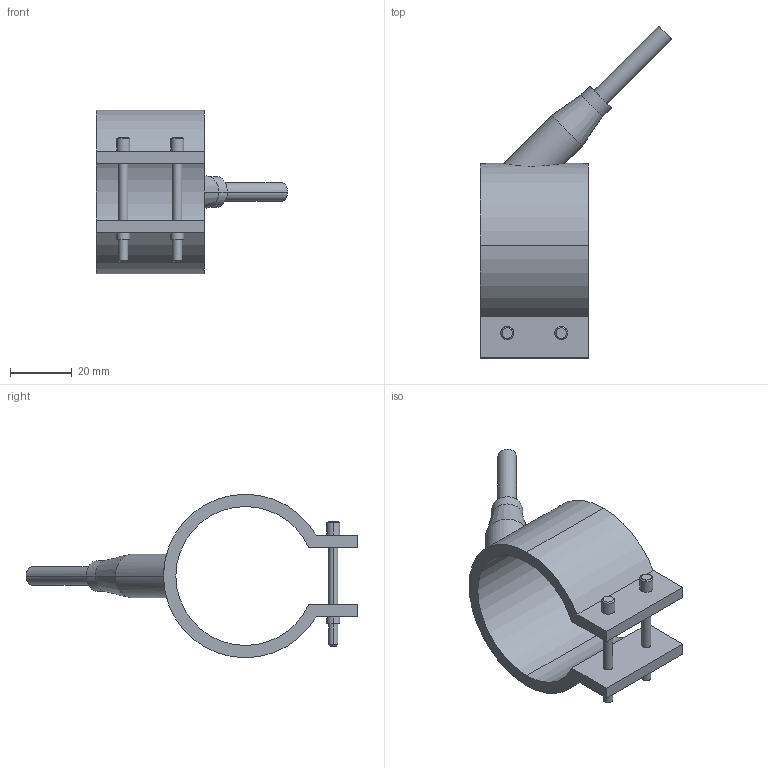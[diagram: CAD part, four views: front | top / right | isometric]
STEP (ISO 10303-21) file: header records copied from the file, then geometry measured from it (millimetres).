
FILE_DESCRIPTION(('CATIA V5 STEP Exchange'),'2;1');
FILE_NAME('C:\Users\Utente\Desktop\IO LAVORO\3D X SITO CF\X SITO\PLASTICA\RF1\29045035.stp','2021-03-27T09:35:26+00:00',('none'),('none'),'CATIA Version 5 Release 20 GA (IN-10)','CATIA V5 STEP AP203','none');
FILE_SCHEMA(('CONFIG_CONTROL_DESIGN'));
Length unit declared in the file: millimetre
Products named in the file (1): 29045035
Bounding box: 62.05 x 107.55 x 53 mm (x, y, z)
Volume: 27769.2 mm3; surface area: 15057.8 mm2
Topology: 1 solids, 1 shells, 54 faces, 122 edges, 78 vertices
Faces by surface type: cylinder 28, plane 16, cone 10
Entity records: 1720 total; most frequent: CARTESIAN_POINT 491, ORIENTED_EDGE 244, DIRECTION 214, EDGE_CURVE 122, AXIS2_PLACEMENT_3D 107, VERTEX_POINT 78, EDGE_LOOP 66, VECTOR 56
